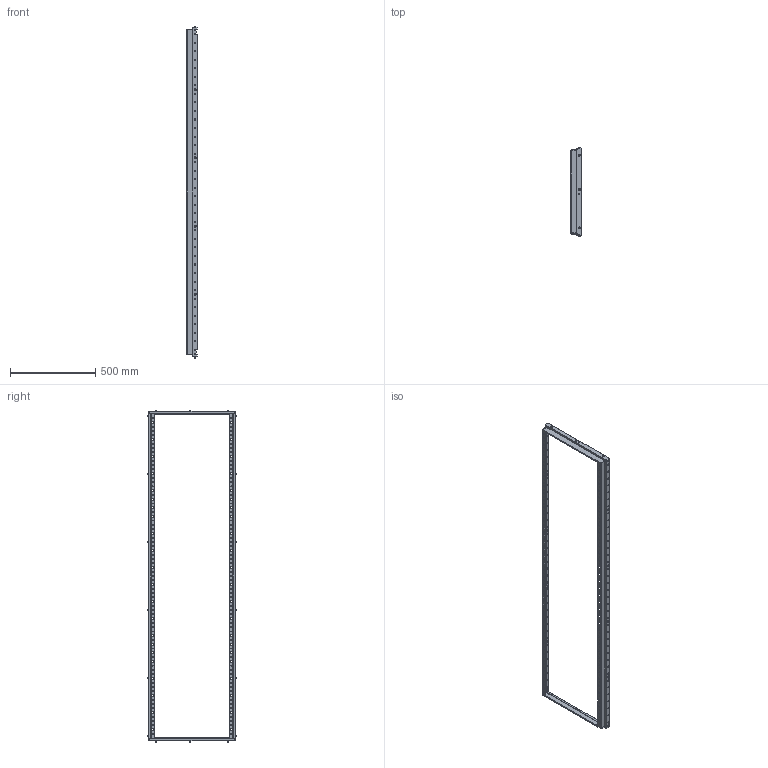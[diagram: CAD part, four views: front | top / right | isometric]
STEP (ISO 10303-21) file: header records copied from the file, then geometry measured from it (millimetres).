
FILE_DESCRIPTION (( 'STEP AP214' ), '1' );
FILE_NAME ('FO-00-UVF-200-060 Ðàìà äëÿ ïëàñòðîíîâ 2000õ600.STEP', '2025-09-25T08:31:52', ( '' ), ( '' ), 'SwSTEP 2.0', 'SolidWorks 2023', '' );
FILE_SCHEMA (( 'AUTOMOTIVE_DESIGN' ));
Length unit declared in the file: millimetre
Products named in the file (1): FO-00-UVF-200-060 Рама для пластронов 2000х600
Bounding box: 60.8 x 525 x 1946 mm (x, y, z)
Volume: 750914.8 mm3; surface area: 896764.4 mm2
Topology: 1 solids, 1 shells, 1788 faces, 4760 edges, 3146 vertices
Faces by surface type: plane 974, cylinder 746, sphere 28, cone 28, torus 12
Entity records: 57055 total; most frequent: CARTESIAN_POINT 10633, ORIENTED_EDGE 9520, DIRECTION 9462, EDGE_CURVE 4760, LINE 3160, VECTOR 3160, AXIS2_PLACEMENT_3D 3151, VERTEX_POINT 3146
